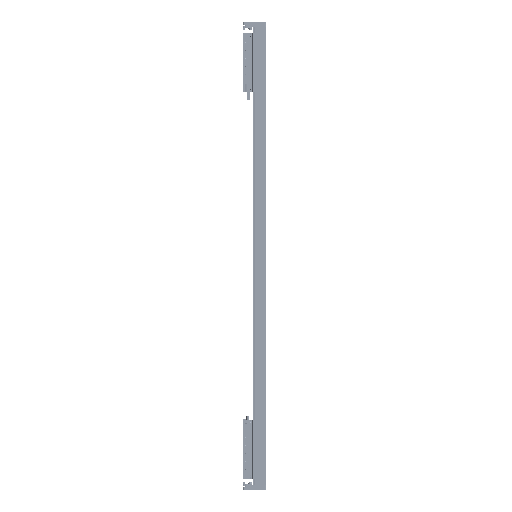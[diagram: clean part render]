
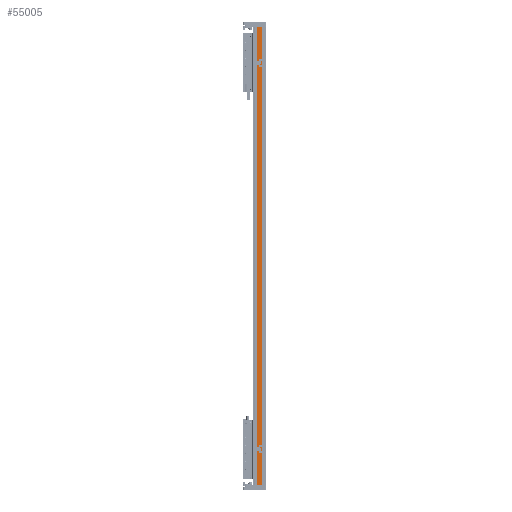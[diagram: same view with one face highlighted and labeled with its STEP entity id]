
A CAD part, left-side view. The second image highlights one B-rep face of the part: STEP entity #55005.
In plain terms, the highlighted planar face has unit normal (-1, 0, 0).
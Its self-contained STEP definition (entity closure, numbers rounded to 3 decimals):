
#6523 = DIRECTION ( 'NONE',  ( 1., 0., 0. ) ) ;
#15780 = CARTESIAN_POINT ( 'NONE',  ( -82.5, 36.95, 960. ) ) ;
#17713 = VERTEX_POINT ( 'NONE', #86422 ) ;
#17752 = FACE_OUTER_BOUND ( 'NONE', #112807, .T. ) ;
#24676 = DIRECTION ( 'NONE',  ( 0., 0., -1. ) ) ;
#24779 = ORIENTED_EDGE ( 'NONE', *, *, #30516, .T. ) ;
#30516 = EDGE_CURVE ( 'NONE', #95663, #57919, #90961, .T. ) ;
#30843 = VECTOR ( 'NONE', #45845, 1000. ) ;
#44545 = LINE ( 'NONE', #54515, #30843 ) ;
#45845 = DIRECTION ( 'NONE',  ( 0., -1., 0. ) ) ;
#45964 = VECTOR ( 'NONE', #116441, 1000. ) ;
#47389 = EDGE_CURVE ( 'NONE', #17713, #71581, #44545, .T. ) ;
#48902 = CARTESIAN_POINT ( 'NONE',  ( -82.5, 14.45, -960. ) ) ;
#49493 = ORIENTED_EDGE ( 'NONE', *, *, #47389, .F. ) ;
#54515 = CARTESIAN_POINT ( 'NONE',  ( -82.5, 36.95, 960. ) ) ;
#55005 = ADVANCED_FACE ( 'NONE', ( #17752 ), #57678, .F. ) ;
#57678 = PLANE ( 'NONE',  #87001 ) ;
#57919 = VERTEX_POINT ( 'NONE', #48902 ) ;
#58845 = ORIENTED_EDGE ( 'NONE', *, *, #77477, .F. ) ;
#61478 = VECTOR ( 'NONE', #24676, 1000. ) ;
#65253 = CARTESIAN_POINT ( 'NONE',  ( -82.5, 36.95, 960. ) ) ;
#66313 = CARTESIAN_POINT ( 'NONE',  ( -82.5, 36.95, -960. ) ) ;
#71581 = VERTEX_POINT ( 'NONE', #90837 ) ;
#74166 = ORIENTED_EDGE ( 'NONE', *, *, #112842, .T. ) ;
#75977 = LINE ( 'NONE', #115110, #45964 ) ;
#77477 = EDGE_CURVE ( 'NONE', #71581, #57919, #75977, .T. ) ;
#86422 = CARTESIAN_POINT ( 'NONE',  ( -82.5, 36.95, 960. ) ) ;
#87001 = AXIS2_PLACEMENT_3D ( 'NONE', #15780, #6523, #116781 ) ;
#90837 = CARTESIAN_POINT ( 'NONE',  ( -82.5, 14.45, 960. ) ) ;
#90961 = LINE ( 'NONE', #112766, #101111 ) ;
#95663 = VERTEX_POINT ( 'NONE', #66313 ) ;
#101111 = VECTOR ( 'NONE', #122758, 1000. ) ;
#112766 = CARTESIAN_POINT ( 'NONE',  ( -82.5, 36.95, -960. ) ) ;
#112807 = EDGE_LOOP ( 'NONE', ( #24779, #58845, #49493, #74166 ) ) ;
#112842 = EDGE_CURVE ( 'NONE', #17713, #95663, #115672, .T. ) ;
#115110 = CARTESIAN_POINT ( 'NONE',  ( -82.5, 14.45, 960. ) ) ;
#115672 = LINE ( 'NONE', #65253, #61478 ) ;
#116441 = DIRECTION ( 'NONE',  ( 0., 0., -1. ) ) ;
#116781 = DIRECTION ( 'NONE',  ( 0., 1., 0. ) ) ;
#122758 = DIRECTION ( 'NONE',  ( 0., -1., 0. ) ) ;
